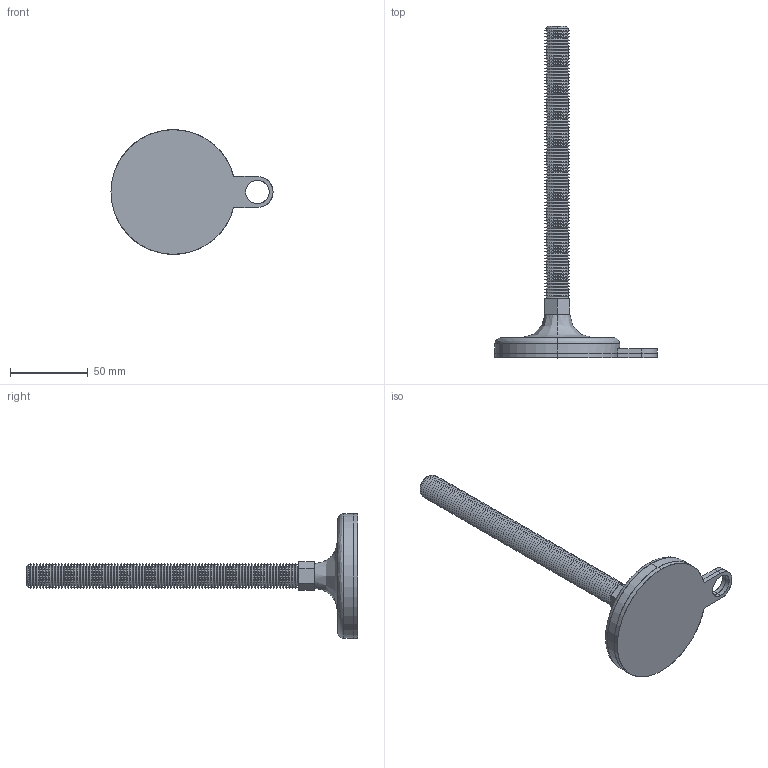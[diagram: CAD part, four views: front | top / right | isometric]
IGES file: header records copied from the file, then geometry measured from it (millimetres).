
Start section: SolidWorks IGES file using analytic representation for surfaces
Global section: file name: C:\Users\liam_\OneDrive\Documents\WORK\Work for WixRoyd\Job Files\J-00026 - Matt Davis CAD - 20191124\04. CAD Drawings\Wixroyd20191124\34704_v2\34704_v2_20191128_IGES\34704.W1603.igs; native system: SolidWorks 2017; preprocessor: SolidWorks 2017; author: liam_; date: 191128.202527; units: millimetre
Bounding box: 104 x 213 x 80 mm (x, y, z)
Surface area: 41225.8 mm2 (no closed solid volume)
Topology: 0 solids, 0 shells, 393 faces, 2204 edges, 2204 vertices
Faces by surface type: revolution 361, bspline 32
